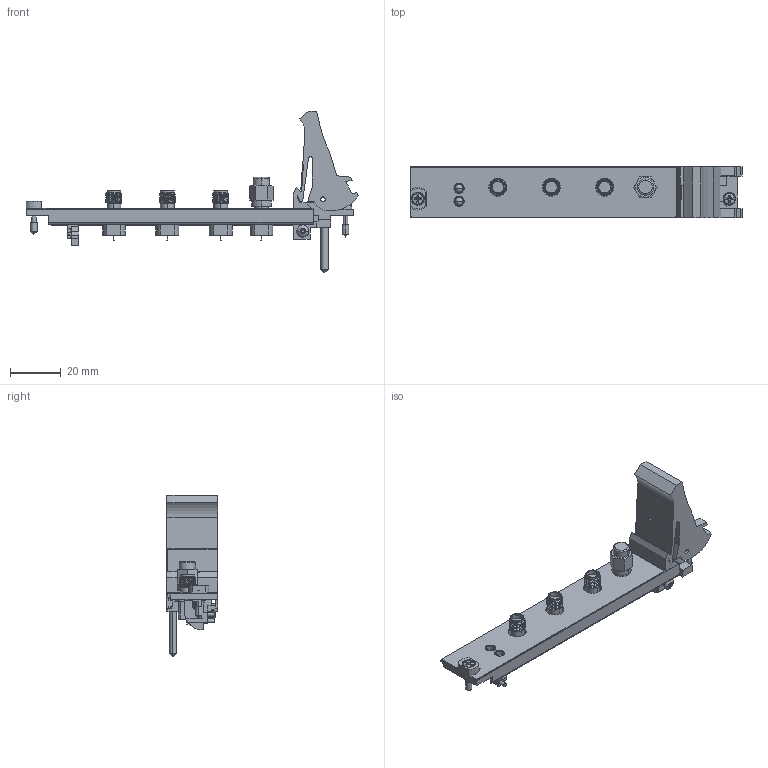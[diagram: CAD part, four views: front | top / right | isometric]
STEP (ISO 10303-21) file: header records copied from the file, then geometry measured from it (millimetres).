
FILE_DESCRIPTION((''),'2;1');
FILE_NAME('CU_PXIE-5601','2009-09-21T',('jjorden'),(''),'PRO/ENGINEER BY PARAMETRIC TECHNOLOGY CORPORATION, 2006080','PRO/ENGINEER BY PARAMETRIC TECHNOLOGY CORPORATION, 2006080','');
FILE_SCHEMA(('CONFIG_CONTROL_DESIGN'));
Products named in the file (1): CU_PXIE-5601
Bounding box: 130.5 x 20.29 x 63.53 mm (x, y, z)
Volume: 18552.1 mm3; surface area: 19365.4 mm2
Topology: 3 solids, 8 shells, 1236 faces, 3388 edges, 2165 vertices
Faces by surface type: cylinder 465, plane 461, bspline 138, cone 100, torus 50, extrusion 12, sphere 10
Entity records: 81633 total; most frequent: CARTESIAN_POINT 51672, ORIENTED_EDGE 6736, DIRECTION 5523, EDGE_CURVE 3368, VERTEX_POINT 2165, AXIS2_PLACEMENT_3D 1902, VECTOR 1719, LINE 1707
